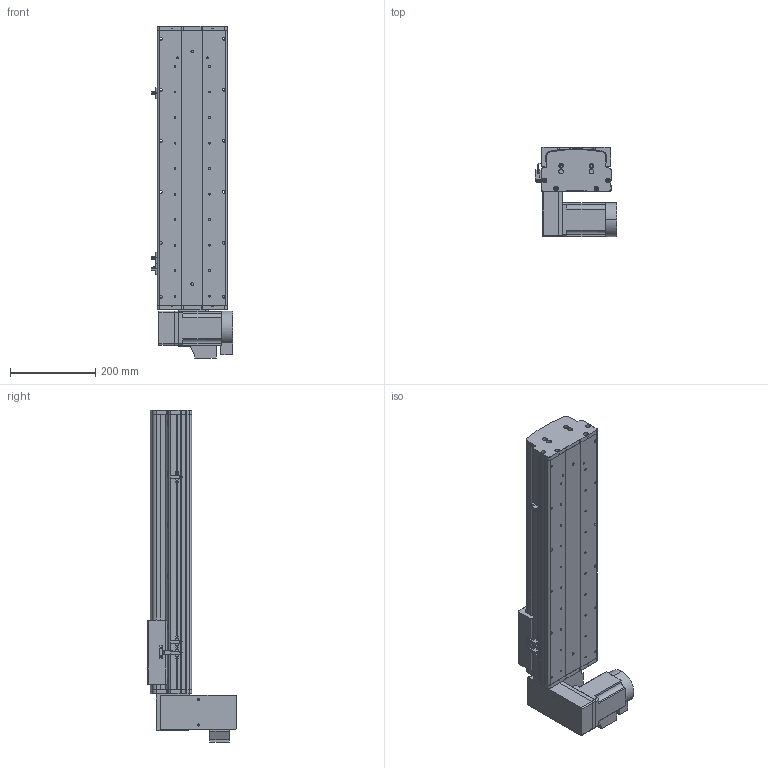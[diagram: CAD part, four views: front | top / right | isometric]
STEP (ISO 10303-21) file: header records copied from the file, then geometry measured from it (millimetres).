
FILE_DESCRIPTION (( 'STEP AP214' ), '1' );
FILE_NAME ('KSD165B-S400-MLD-CM .STEP', '2017-10-16T06:54:05', ( '微软用户' ), ( '微软中国' ), 'SwSTEP 2.0', 'SolidWorks 2014', '' );
FILE_SCHEMA (( 'AUTOMOTIVE_DESIGN' ));
Length unit declared in the file: millimetre
Products named in the file (17): 130宽模组马达安装板连板上下折丝杆同步带; 130宽模组保护罩上下左右折-同步带; HTPA26S5M250-A-H8 750W萇儂蚚; HTPA26S5M250-A-H8 400W萇儂蚚 ; 165宽马达安装板同步带左-改; KSD165模组-同步带防尘盖1-400行程-最新版; KSD165模组同步带底板-400行程-最新; 拸秶雄ん750W侜督萇儂; U倰嫖萇假蚾璃; U倰嫖萇EEㄜSX672; 覜茼え68遵圉猾敕; KSD165模组-同步带-防撞垫2; KSD165模组同步带-防撞垫1; KSD165耀郪-ヶ傷啣1-肮祭湍; KSD165模组-后端板1-同步带; KSD165模组-同步带滑动座-最新版; KSD165B-S400-MLD-CM 
Assembly tree (20 placements, depth 2):
  KSD165B-S400-MLD-CM 
    KSD165模组-同步带滑动座-最新版
    KSD165模组-后端板1-同步带
    KSD165耀郪-ヶ傷啣1-肮祭湍
    KSD165模组同步带-防撞垫1
    KSD165模组-同步带-防撞垫2
    覜茼え68遵圉猾敕
    U倰嫖萇EEㄜSX672  x3
    U倰嫖萇假蚾璃  x3
    拸秶雄ん750W侜督萇儂
    KSD165模组同步带底板-400行程-最新
    KSD165模组-同步带防尘盖1-400行程-最新版
    165宽马达安装板同步带左-改
    HTPA26S5M250-A-H8 400W萇儂蚚 
    HTPA26S5M250-A-H8 750W萇儂蚚
    130宽模组保护罩上下左右折-同步带
    130宽模组马达安装板连板上下折丝杆同步带
Bounding box: 191.2 x 210 x 781 mm (x, y, z)
Volume: 5208425.5 mm3; surface area: 1204401.1 mm2
Topology: 21 solids, 22 shells, 1889 faces, 5316 edges, 3468 vertices
Faces by surface type: cylinder 1197, plane 580, cone 112
Entity records: 60584 total; most frequent: CARTESIAN_POINT 12414, DIRECTION 10020, ORIENTED_EDGE 9292, EDGE_CURVE 4646, AXIS2_PLACEMENT_3D 3920, VERTEX_POINT 3060, CIRCLE 2228, VECTOR 2180
